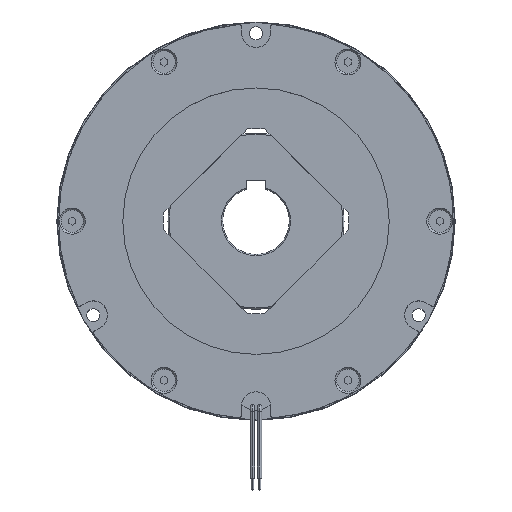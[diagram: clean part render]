
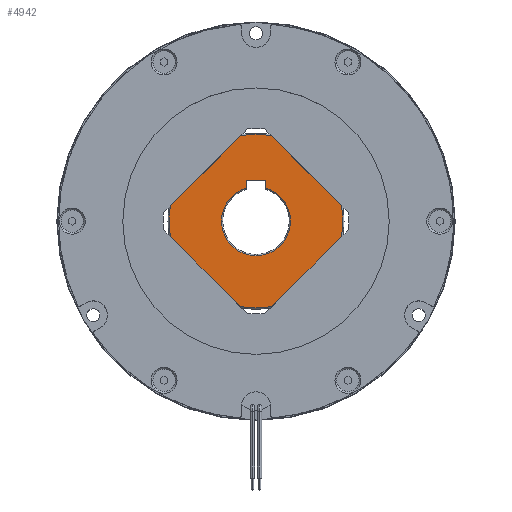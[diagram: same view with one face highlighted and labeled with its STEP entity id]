
A CAD part, top view. The second image highlights one B-rep face of the part: STEP entity #4942.
In plain terms, the highlighted planar face has unit normal (0, 0, 1).
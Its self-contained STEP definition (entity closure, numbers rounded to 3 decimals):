
#18 = CIRCLE ( 'NONE', #9977, 36.5 ) ;
#23 = CIRCLE ( 'NONE', #9980, 36.5 ) ;
#25 = CIRCLE ( 'NONE', #9984, 36.5 ) ;
#29 = CIRCLE ( 'NONE', #9986, 36.5 ) ;
#34 = CIRCLE ( 'NONE', #9994, 14.5 ) ;
#35 = LINE ( 'NONE', #3696, #46 ) ;
#38 = LINE ( 'NONE', #3700, #42 ) ;
#42 = VECTOR ( 'NONE', #3701, 1000. ) ;
#46 = VECTOR ( 'NONE', #3705, 1000. ) ;
#1042 = LINE ( 'NONE', #2397, #1048 ) ;
#1048 = VECTOR ( 'NONE', #2398, 1000. ) ;
#1049 = LINE ( 'NONE', #2401, #1052 ) ;
#1052 = VECTOR ( 'NONE', #2402, 1000. ) ;
#1055 = LINE ( 'NONE', #2407, #1058 ) ;
#1058 = VECTOR ( 'NONE', #2408, 1000. ) ;
#1061 = LINE ( 'NONE', #2413, #1064 ) ;
#1064 = VECTOR ( 'NONE', #2414, 1000. ) ;
#1067 = LINE ( 'NONE', #2419, #1070 ) ;
#1070 = VECTOR ( 'NONE', #2420, 1000. ) ;
#1354 = EDGE_CURVE ( 'NONE', #18534, #18546, #19135, .T. ) ;
#1356 = EDGE_CURVE ( 'NONE', #18535, #18534, #19131, .T. ) ;
#1362 = EDGE_CURVE ( 'NONE', #18531, #18528, #19128, .T. ) ;
#2397 = CARTESIAN_POINT ( 'NONE',  ( -4., 17., 25. ) ) ;
#2398 = DIRECTION ( 'NONE',  ( 0., -1., 0. ) ) ;
#2401 = CARTESIAN_POINT ( 'NONE',  ( 0., 42.426, 25. ) ) ;
#2402 = DIRECTION ( 'NONE',  ( -0.707, -0.707, 0. ) ) ;
#2407 = CARTESIAN_POINT ( 'NONE',  ( 0., 42.426, 25. ) ) ;
#2408 = DIRECTION ( 'NONE',  ( -0.707, 0.707, 0. ) ) ;
#2413 = CARTESIAN_POINT ( 'NONE',  ( 0., -42.426, 25. ) ) ;
#2414 = DIRECTION ( 'NONE',  ( 0.707, 0.707, 0. ) ) ;
#2419 = CARTESIAN_POINT ( 'NONE',  ( -42.426, 0., 25. ) ) ;
#2420 = DIRECTION ( 'NONE',  ( 0.707, -0.707, 0. ) ) ;
#3622 = CARTESIAN_POINT ( 'NONE',  ( 0., 0., 25. ) ) ;
#3623 = DIRECTION ( 'NONE',  ( 0., 0., 1. ) ) ;
#3624 = DIRECTION ( 'NONE',  ( 1., 0., 0. ) ) ;
#3636 = CARTESIAN_POINT ( 'NONE',  ( 0., 0., 25. ) ) ;
#3637 = DIRECTION ( 'NONE',  ( 0., 0., 1. ) ) ;
#3638 = DIRECTION ( 'NONE',  ( 1., 0., 0. ) ) ;
#3690 = CARTESIAN_POINT ( 'NONE',  ( 0., 0., 25. ) ) ;
#3691 = DIRECTION ( 'NONE',  ( 0., 0., -1. ) ) ;
#3692 = DIRECTION ( 'NONE',  ( 1., 0., 0. ) ) ;
#3696 = CARTESIAN_POINT ( 'NONE',  ( -4., 17., 25. ) ) ;
#3700 = CARTESIAN_POINT ( 'NONE',  ( 4., 17., 25. ) ) ;
#3701 = DIRECTION ( 'NONE',  ( 0., 1., 0. ) ) ;
#3705 = DIRECTION ( 'NONE',  ( -1., 0., 0. ) ) ;
#3779 = CARTESIAN_POINT ( 'NONE',  ( 4., 17., 25. ) ) ;
#3783 = CARTESIAN_POINT ( 'NONE',  ( -4., 13.937, 25. ) ) ;
#3785 = CARTESIAN_POINT ( 'NONE',  ( -4., 17., 25. ) ) ;
#3797 = CARTESIAN_POINT ( 'NONE',  ( 6.512, -35.914, 25. ) ) ;
#3799 = CARTESIAN_POINT ( 'NONE',  ( -6.512, -35.914, 25. ) ) ;
#3801 = CARTESIAN_POINT ( 'NONE',  ( 35.914, 6.512, 25. ) ) ;
#3803 = CARTESIAN_POINT ( 'NONE',  ( 35.914, -6.512, 25. ) ) ;
#3807 = CARTESIAN_POINT ( 'NONE',  ( -6.512, 35.914, 25. ) ) ;
#3809 = CARTESIAN_POINT ( 'NONE',  ( 6.512, 35.914, 25. ) ) ;
#3811 = CARTESIAN_POINT ( 'NONE',  ( -35.914, 6.512, 25. ) ) ;
#4791 = CARTESIAN_POINT ( 'NONE',  ( 0., 0., 25. ) ) ;
#4806 = CARTESIAN_POINT ( 'NONE',  ( 0., 0., 25. ) ) ;
#4846 = CARTESIAN_POINT ( 'NONE',  ( 0., 0., 25. ) ) ;
#4848 = DIRECTION ( 'NONE',  ( 0., 0., 1. ) ) ;
#4885 = DIRECTION ( 'NONE',  ( 0., 0., -1. ) ) ;
#4894 = DIRECTION ( 'NONE',  ( 1., 0., 0. ) ) ;
#4902 = DIRECTION ( 'NONE',  ( 1., 0., 0. ) ) ;
#4917 = DIRECTION ( 'NONE',  ( 0., 0., -1. ) ) ;
#4935 = DIRECTION ( 'NONE',  ( 1., 0., 0. ) ) ;
#4942 = ADVANCED_FACE ( 'NONE', ( #8531, #8533 ), #5700, .T. ) ;
#5383 = EDGE_CURVE ( 'NONE', #7357, #18531, #18, .T. ) ;
#5389 = EDGE_CURVE ( 'NONE', #7355, #7353, #23, .T. ) ;
#5396 = EDGE_CURVE ( 'NONE', #7349, #7347, #25, .T. ) ;
#5400 = EDGE_CURVE ( 'NONE', #7345, #7343, #29, .T. ) ;
#5415 = EDGE_CURVE ( 'NONE', #18546, #7329, #34, .T. ) ;
#5419 = EDGE_CURVE ( 'NONE', #18535, #7325, #38, .T. ) ;
#5421 = EDGE_CURVE ( 'NONE', #7325, #7331, #35, .T. ) ;
#5700 = PLANE ( 'NONE',  #17554 ) ;
#5714 = CARTESIAN_POINT ( 'NONE',  ( 0., 0., 25. ) ) ;
#5715 = DIRECTION ( 'NONE',  ( 0., 0., 1. ) ) ;
#5716 = DIRECTION ( 'NONE',  ( 1., 0., 0. ) ) ;
#6711 = EDGE_LOOP ( 'NONE', ( #18304, #18303, #18302, #18301, #18300, #18299 ) ) ;
#6860 = EDGE_LOOP ( 'NONE', ( #18298, #18297, #18296, #18295, #18294, #18293, #18292, #18291, #18290 ) ) ;
#7325 = VERTEX_POINT ( 'NONE', #3779 ) ;
#7329 = VERTEX_POINT ( 'NONE', #3783 ) ;
#7331 = VERTEX_POINT ( 'NONE', #3785 ) ;
#7343 = VERTEX_POINT ( 'NONE', #3797 ) ;
#7345 = VERTEX_POINT ( 'NONE', #3799 ) ;
#7347 = VERTEX_POINT ( 'NONE', #3801 ) ;
#7349 = VERTEX_POINT ( 'NONE', #3803 ) ;
#7353 = VERTEX_POINT ( 'NONE', #3807 ) ;
#7355 = VERTEX_POINT ( 'NONE', #3809 ) ;
#7357 = VERTEX_POINT ( 'NONE', #3811 ) ;
#8531 = FACE_BOUND ( 'NONE', #6711, .T. ) ;
#8533 = FACE_OUTER_BOUND ( 'NONE', #6860, .T. ) ;
#9977 = AXIS2_PLACEMENT_3D ( 'NONE', #16954, #16955, #16956 ) ;
#9980 = AXIS2_PLACEMENT_3D ( 'NONE', #16973, #16974, #16975 ) ;
#9984 = AXIS2_PLACEMENT_3D ( 'NONE', #3622, #3623, #3624 ) ;
#9986 = AXIS2_PLACEMENT_3D ( 'NONE', #3636, #3637, #3638 ) ;
#9994 = AXIS2_PLACEMENT_3D ( 'NONE', #3690, #3691, #3692 ) ;
#12254 = EDGE_CURVE ( 'NONE', #7331, #7329, #1042, .T. ) ;
#12256 = EDGE_CURVE ( 'NONE', #7353, #7357, #1049, .T. ) ;
#12259 = EDGE_CURVE ( 'NONE', #7347, #7355, #1055, .T. ) ;
#12262 = EDGE_CURVE ( 'NONE', #7343, #7349, #1061, .T. ) ;
#12266 = EDGE_CURVE ( 'NONE', #18528, #7345, #1067, .T. ) ;
#16347 = AXIS2_PLACEMENT_3D ( 'NONE', #4806, #4885, #4894 ) ;
#16348 = AXIS2_PLACEMENT_3D ( 'NONE', #4846, #4917, #4902 ) ;
#16351 = AXIS2_PLACEMENT_3D ( 'NONE', #4791, #4848, #4935 ) ;
#16954 = CARTESIAN_POINT ( 'NONE',  ( 0., 0., 25. ) ) ;
#16955 = DIRECTION ( 'NONE',  ( 0., 0., 1. ) ) ;
#16956 = DIRECTION ( 'NONE',  ( 1., 0., 0. ) ) ;
#16973 = CARTESIAN_POINT ( 'NONE',  ( 0., 0., 25. ) ) ;
#16974 = DIRECTION ( 'NONE',  ( 0., 0., 1. ) ) ;
#16975 = DIRECTION ( 'NONE',  ( 1., 0., 0. ) ) ;
#17201 = CARTESIAN_POINT ( 'NONE',  ( -35.914, -6.512, 25. ) ) ;
#17204 = CARTESIAN_POINT ( 'NONE',  ( -36.5, 0., 25. ) ) ;
#17207 = CARTESIAN_POINT ( 'NONE',  ( 14.5, 0., 25. ) ) ;
#17208 = CARTESIAN_POINT ( 'NONE',  ( 4., 13.937, 25. ) ) ;
#17219 = CARTESIAN_POINT ( 'NONE',  ( -14.5, 0., 25. ) ) ;
#17554 = AXIS2_PLACEMENT_3D ( 'NONE', #5714, #5715, #5716 ) ;
#18290 = ORIENTED_EDGE ( 'NONE', *, *, #1362, .T. ) ;
#18291 = ORIENTED_EDGE ( 'NONE', *, *, #5383, .T. ) ;
#18292 = ORIENTED_EDGE ( 'NONE', *, *, #12256, .T. ) ;
#18293 = ORIENTED_EDGE ( 'NONE', *, *, #5389, .T. ) ;
#18294 = ORIENTED_EDGE ( 'NONE', *, *, #12259, .T. ) ;
#18295 = ORIENTED_EDGE ( 'NONE', *, *, #5396, .T. ) ;
#18296 = ORIENTED_EDGE ( 'NONE', *, *, #12262, .T. ) ;
#18297 = ORIENTED_EDGE ( 'NONE', *, *, #5400, .T. ) ;
#18298 = ORIENTED_EDGE ( 'NONE', *, *, #12266, .T. ) ;
#18299 = ORIENTED_EDGE ( 'NONE', *, *, #5421, .F. ) ;
#18300 = ORIENTED_EDGE ( 'NONE', *, *, #12254, .F. ) ;
#18301 = ORIENTED_EDGE ( 'NONE', *, *, #5415, .T. ) ;
#18302 = ORIENTED_EDGE ( 'NONE', *, *, #1354, .T. ) ;
#18303 = ORIENTED_EDGE ( 'NONE', *, *, #1356, .T. ) ;
#18304 = ORIENTED_EDGE ( 'NONE', *, *, #5419, .F. ) ;
#18528 = VERTEX_POINT ( 'NONE', #17201 ) ;
#18531 = VERTEX_POINT ( 'NONE', #17204 ) ;
#18534 = VERTEX_POINT ( 'NONE', #17207 ) ;
#18535 = VERTEX_POINT ( 'NONE', #17208 ) ;
#18546 = VERTEX_POINT ( 'NONE', #17219 ) ;
#19128 = CIRCLE ( 'NONE', #16351, 36.5 ) ;
#19131 = CIRCLE ( 'NONE', #16348, 14.5 ) ;
#19135 = CIRCLE ( 'NONE', #16347, 14.5 ) ;
